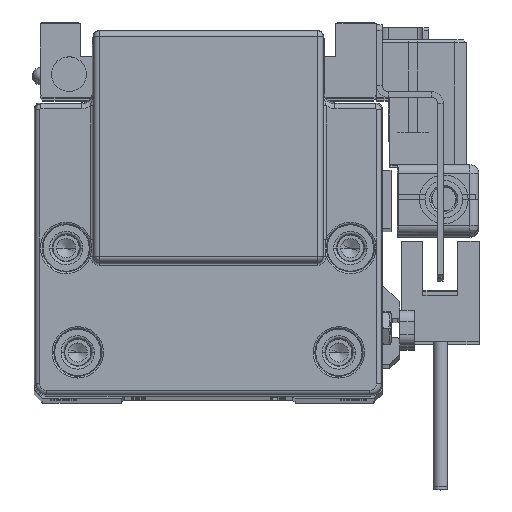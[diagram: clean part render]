
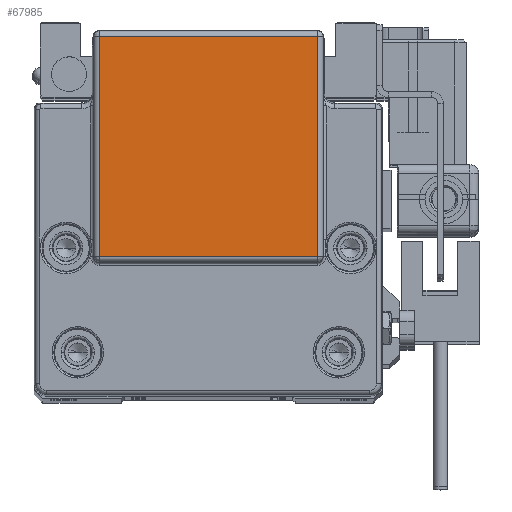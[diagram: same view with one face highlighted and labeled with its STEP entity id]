
A CAD part, top view. The second image highlights one B-rep face of the part: STEP entity #67985.
In plain terms, the highlighted planar face has unit normal (0, 0, 1) as drawn and (0, 0, -1) by its records, which use the part's own axes.
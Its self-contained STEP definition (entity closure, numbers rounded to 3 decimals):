
#344 = LINE ( 'NONE', #63963, #1621 ) ;
#1621 = VECTOR ( 'NONE', #71273, 1000. ) ;
#2301 = VECTOR ( 'NONE', #22593, 1000. ) ;
#2923 = EDGE_CURVE ( 'NONE', #65228, #26741, #344, .T. ) ;
#6473 = VERTEX_POINT ( 'NONE', #54884 ) ;
#8901 = CARTESIAN_POINT ( 'NONE',  ( 18.808, 62.447, -143. ) ) ;
#9410 = CARTESIAN_POINT ( 'NONE',  ( -18.808, 24.518, -143. ) ) ;
#9580 = EDGE_CURVE ( 'NONE', #53670, #6473, #15974, .T. ) ;
#13331 = ORIENTED_EDGE ( 'NONE', *, *, #2923, .T. ) ;
#14935 = DIRECTION ( 'NONE',  ( 0., 1., 0. ) ) ;
#15679 = ORIENTED_EDGE ( 'NONE', *, *, #58667, .F. ) ;
#15974 = LINE ( 'NONE', #70338, #23124 ) ;
#17020 = DIRECTION ( 'NONE',  ( 0., 0., -1. ) ) ;
#19466 = VECTOR ( 'NONE', #14935, 1000. ) ;
#22593 = DIRECTION ( 'NONE',  ( 0., -1., 0. ) ) ;
#23124 = VECTOR ( 'NONE', #33347, 1000. ) ;
#23409 = ORIENTED_EDGE ( 'NONE', *, *, #9580, .F. ) ;
#26741 = VERTEX_POINT ( 'NONE', #8901 ) ;
#27067 = PLANE ( 'NONE',  #52367 ) ;
#33253 = DIRECTION ( 'NONE',  ( 0., 1., 0. ) ) ;
#33347 = DIRECTION ( 'NONE',  ( 1., 0., 0. ) ) ;
#33425 = CARTESIAN_POINT ( 'NONE',  ( 18.808, 24.5, -143. ) ) ;
#34021 = CARTESIAN_POINT ( 'NONE',  ( 19., 24.5, -143. ) ) ;
#43732 = EDGE_CURVE ( 'NONE', #6473, #26741, #56588, .T. ) ;
#51017 = FACE_OUTER_BOUND ( 'NONE', #67218, .T. ) ;
#52367 = AXIS2_PLACEMENT_3D ( 'NONE', #34021, #17020, #33253 ) ;
#53670 = VERTEX_POINT ( 'NONE', #9410 ) ;
#54884 = CARTESIAN_POINT ( 'NONE',  ( 18.808, 24.518, -143. ) ) ;
#56588 = LINE ( 'NONE', #33425, #19466 ) ;
#58667 = EDGE_CURVE ( 'NONE', #65228, #53670, #63094, .T. ) ;
#63094 = LINE ( 'NONE', #68854, #2301 ) ;
#63963 = CARTESIAN_POINT ( 'NONE',  ( 19., 62.447, -143. ) ) ;
#65228 = VERTEX_POINT ( 'NONE', #66546 ) ;
#66546 = CARTESIAN_POINT ( 'NONE',  ( -18.808, 62.447, -143. ) ) ;
#67218 = EDGE_LOOP ( 'NONE', ( #70641, #23409, #15679, #13331 ) ) ;
#67985 = ADVANCED_FACE ( 'NONE', ( #51017 ), #27067, .T. ) ;
#68854 = CARTESIAN_POINT ( 'NONE',  ( -18.808, 31., -143. ) ) ;
#70338 = CARTESIAN_POINT ( 'NONE',  ( 19., 24.518, -143. ) ) ;
#70641 = ORIENTED_EDGE ( 'NONE', *, *, #43732, .F. ) ;
#71273 = DIRECTION ( 'NONE',  ( 1., 0., 0. ) ) ;
